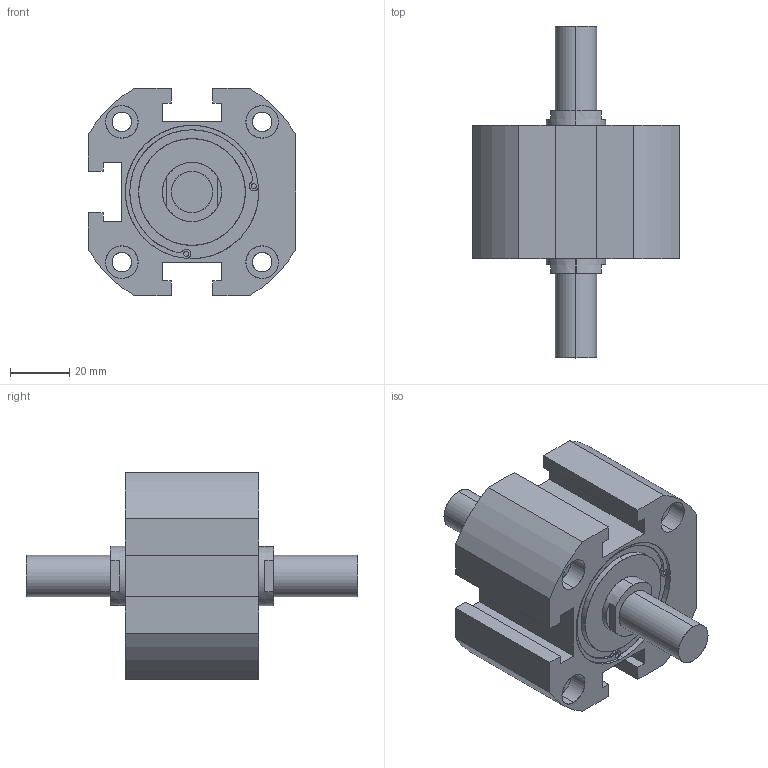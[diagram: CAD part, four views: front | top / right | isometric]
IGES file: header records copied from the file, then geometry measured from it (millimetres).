
Start section: SolidWorks IGES file using analytic representation for surfaces
Global section: file name: C:\Users\Toshiba\Desktop\XG#M7-50-10.IGS; native system: SolidWorks 2014; preprocessor: SolidWorks 2014; author: Toshiba; date: 160524.102423; units: millimetre
Bounding box: 70 x 112 x 70 mm (x, y, z)
Surface area: 32526.2 mm2 (no closed solid volume)
Topology: 0 solids, 0 shells, 147 faces, 2766 edges, 2762 vertices
Faces by surface type: revolution 85, bspline 62
